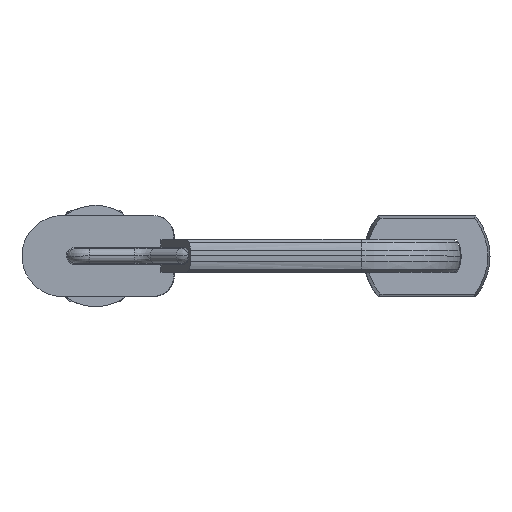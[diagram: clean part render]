
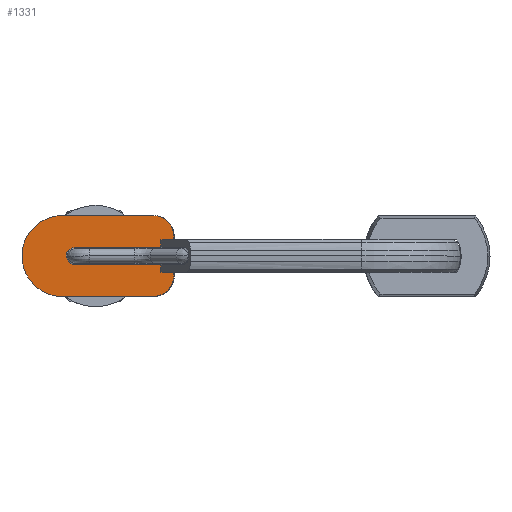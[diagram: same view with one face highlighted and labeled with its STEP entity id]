
A CAD part, top view. The second image highlights one B-rep face of the part: STEP entity #1331.
In plain terms, the highlighted free-form (B-spline) face has degree [1, 1] with [2, 2] control points.
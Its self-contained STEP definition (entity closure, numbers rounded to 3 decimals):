
#138=CARTESIAN_POINT('',(-87.411,6.5,14.628));
#139=VERTEX_POINT('',#138);
#145=CARTESIAN_POINT('',(-92.411,6.5,14.497));
#146=VERTEX_POINT('',#145);
#147=CARTESIAN_POINT('',(-92.411,6.5,14.497));
#148=CARTESIAN_POINT('',(-87.411,6.5,14.628));
#149=B_SPLINE_CURVE_WITH_KNOTS('',1,(#147,#148),.POLYLINE_FORM.,.F.,.U.,(2,2),(0.713,0.729),.UNSPECIFIED.);
#150=EDGE_CURVE('',#146,#139,#149,.T.);
#511=CARTESIAN_POINT('',(-92.411,-6.5,14.497));
#512=VERTEX_POINT('',#511);
#518=CARTESIAN_POINT('',(-87.411,-6.5,14.628));
#519=VERTEX_POINT('',#518);
#520=CARTESIAN_POINT('',(-87.411,-6.5,14.628));
#521=CARTESIAN_POINT('',(-92.411,-6.5,14.497));
#522=B_SPLINE_CURVE_WITH_KNOTS('',1,(#520,#521),.POLYLINE_FORM.,.F.,.U.,(2,2),(0.271,0.288),.UNSPECIFIED.);
#523=EDGE_CURVE('',#519,#512,#522,.T.);
#1192=CARTESIAN_POINT('',(-153.388,-36.,12.9));
#1193=CARTESIAN_POINT('',(-153.388,36.,12.9));
#1194=CARTESIAN_POINT('',(-81.413,-36.,14.785));
#1195=CARTESIAN_POINT('',(-81.413,36.,14.785));
#1196=B_SPLINE_SURFACE_WITH_KNOTS('',1,1,((#1192,#1193),(#1194,#1195)),.PLANE_SURF.,.F.,.F.,.U.,(2,2),(2,2),(0.,1.),(0.,1.),.UNSPECIFIED.);
#1197=CARTESIAN_POINT('',(-92.411,3.5,14.497));
#1198=VERTEX_POINT('',#1197);
#1199=CARTESIAN_POINT('',(-125.76,3.5,13.623));
#1200=VERTEX_POINT('',#1199);
#1201=CARTESIAN_POINT('',(-92.411,3.5,14.497));
#1202=CARTESIAN_POINT('',(-125.76,3.5,13.623));
#1203=B_SPLINE_CURVE_WITH_KNOTS('',1,(#1201,#1202),.POLYLINE_FORM.,.F.,.U.,(2,2),(0.009,1.),.UNSPECIFIED.);
#1204=EDGE_CURVE('',#1198,#1200,#1203,.T.);
#1205=ORIENTED_EDGE('',*,*,#1204,.F.);
#1206=CARTESIAN_POINT('',(-92.411,3.5,14.497));
#1207=CARTESIAN_POINT('',(-92.411,6.5,14.497));
#1208=B_SPLINE_CURVE_WITH_KNOTS('',1,(#1206,#1207),.POLYLINE_FORM.,.F.,.U.,(2,2),(0.306,0.32),.UNSPECIFIED.);
#1209=EDGE_CURVE('',#1198,#146,#1208,.T.);
#1210=ORIENTED_EDGE('',*,*,#1209,.T.);
#1211=ORIENTED_EDGE('',*,*,#150,.T.);
#1212=CARTESIAN_POINT('',(-87.411,8.,14.628));
#1213=VERTEX_POINT('',#1212);
#1214=CARTESIAN_POINT('',(-87.411,6.5,14.628));
#1215=CARTESIAN_POINT('',(-87.411,8.,14.628));
#1216=B_SPLINE_CURVE_WITH_KNOTS('',1,(#1214,#1215),.POLYLINE_FORM.,.F.,.U.,(2,2),(0.703,0.75),.UNSPECIFIED.);
#1217=EDGE_CURVE('',#139,#1213,#1216,.T.);
#1218=ORIENTED_EDGE('',*,*,#1217,.T.);
#1219=CARTESIAN_POINT('',(-95.408,16.,14.418));
#1220=VERTEX_POINT('',#1219);
#1221=CARTESIAN_POINT('',(-87.411,8.,14.628));
#1222=CARTESIAN_POINT('',(-87.411,16.,14.628));
#1223=CARTESIAN_POINT('',(-95.408,16.,14.418));
#1224=(BOUNDED_CURVE()B_SPLINE_CURVE(2,(#1221,#1222,#1223),.CIRCULAR_ARC.,.F.,.U.)B_SPLINE_CURVE_WITH_KNOTS((3,3),(0.,1.),.UNSPECIFIED.)CURVE()GEOMETRIC_REPRESENTATION_ITEM()RATIONAL_B_SPLINE_CURVE((1.,0.707,1.))REPRESENTATION_ITEM(''));
#1225=EDGE_CURVE('',#1213,#1220,#1224,.T.);
#1226=ORIENTED_EDGE('',*,*,#1225,.T.);
#1227=CARTESIAN_POINT('',(-131.396,16.,13.476));
#1228=VERTEX_POINT('',#1227);
#1229=CARTESIAN_POINT('',(-95.408,16.,14.418));
#1230=CARTESIAN_POINT('',(-131.396,16.,13.476));
#1231=B_SPLINE_CURVE_WITH_KNOTS('',1,(#1229,#1230),.POLYLINE_FORM.,.F.,.U.,(2,2),(0.182,1.),.UNSPECIFIED.);
#1232=EDGE_CURVE('',#1220,#1228,#1231,.T.);
#1233=ORIENTED_EDGE('',*,*,#1232,.T.);
#1234=CARTESIAN_POINT('',(-131.396,-16.,13.476));
#1235=VERTEX_POINT('',#1234);
#1236=CARTESIAN_POINT('',(-131.396,16.,13.476));
#1237=CARTESIAN_POINT('',(-147.39,16.,13.057));
#1238=CARTESIAN_POINT('',(-147.39,0.,13.057));
#1239=CARTESIAN_POINT('',(-147.39,-16.,13.057));
#1240=CARTESIAN_POINT('',(-131.396,-16.,13.476));
#1241=(BOUNDED_CURVE()B_SPLINE_CURVE(2,(#1236,#1237,#1238,#1239,#1240),.CIRCULAR_ARC.,.F.,.U.)B_SPLINE_CURVE_WITH_KNOTS((3,2,3),(0.,0.5,1.),.UNSPECIFIED.)CURVE()GEOMETRIC_REPRESENTATION_ITEM()RATIONAL_B_SPLINE_CURVE((1.,0.707,1.,0.707,1.))REPRESENTATION_ITEM(''));
#1242=EDGE_CURVE('',#1228,#1235,#1241,.T.);
#1243=ORIENTED_EDGE('',*,*,#1242,.T.);
#1244=CARTESIAN_POINT('',(-95.408,-16.,14.418));
#1245=VERTEX_POINT('',#1244);
#1246=CARTESIAN_POINT('',(-131.396,-16.,13.476));
#1247=CARTESIAN_POINT('',(-95.408,-16.,14.418));
#1248=B_SPLINE_CURVE_WITH_KNOTS('',1,(#1246,#1247),.POLYLINE_FORM.,.F.,.U.,(2,2),(0.,0.818),.UNSPECIFIED.);
#1249=EDGE_CURVE('',#1235,#1245,#1248,.T.);
#1250=ORIENTED_EDGE('',*,*,#1249,.T.);
#1251=CARTESIAN_POINT('',(-87.411,-8.,14.628));
#1252=VERTEX_POINT('',#1251);
#1253=CARTESIAN_POINT('',(-95.408,-16.,14.418));
#1254=CARTESIAN_POINT('',(-92.095,-16.,14.505));
#1255=CARTESIAN_POINT('',(-87.411,-11.314,14.628));
#1256=CARTESIAN_POINT('',(-87.411,-8.,14.628));
#1257=(BOUNDED_CURVE()B_SPLINE_CURVE(2,(#1253,#1254,#1255,#1256),.CIRCULAR_ARC.,.F.,.U.)B_SPLINE_CURVE_WITH_KNOTS((3,1,3),(0.,0.5,1.),.UNSPECIFIED.)CURVE()GEOMETRIC_REPRESENTATION_ITEM()RATIONAL_B_SPLINE_CURVE((1.,0.854,0.854,1.))REPRESENTATION_ITEM(''));
#1258=EDGE_CURVE('',#1245,#1252,#1257,.T.);
#1259=ORIENTED_EDGE('',*,*,#1258,.T.);
#1260=CARTESIAN_POINT('',(-87.411,-8.,14.628));
#1261=CARTESIAN_POINT('',(-87.411,-6.5,14.628));
#1262=B_SPLINE_CURVE_WITH_KNOTS('',1,(#1260,#1261),.POLYLINE_FORM.,.F.,.U.,(2,2),(0.25,0.297),.UNSPECIFIED.);
#1263=EDGE_CURVE('',#1252,#519,#1262,.T.);
#1264=ORIENTED_EDGE('',*,*,#1263,.T.);
#1265=ORIENTED_EDGE('',*,*,#523,.T.);
#1266=CARTESIAN_POINT('',(-92.411,-3.5,14.497));
#1267=VERTEX_POINT('',#1266);
#1268=CARTESIAN_POINT('',(-92.411,-6.5,14.497));
#1269=CARTESIAN_POINT('',(-92.411,-3.5,14.497));
#1270=B_SPLINE_CURVE_WITH_KNOTS('',1,(#1268,#1269),.POLYLINE_FORM.,.F.,.U.,(2,2),(0.259,0.273),.UNSPECIFIED.);
#1271=EDGE_CURVE('',#512,#1267,#1270,.T.);
#1272=ORIENTED_EDGE('',*,*,#1271,.T.);
#1273=CARTESIAN_POINT('',(-125.76,-3.5,13.623));
#1274=VERTEX_POINT('',#1273);
#1275=CARTESIAN_POINT('',(-125.76,-3.5,13.623));
#1276=CARTESIAN_POINT('',(-92.411,-3.5,14.497));
#1277=B_SPLINE_CURVE_WITH_KNOTS('',1,(#1275,#1276),.POLYLINE_FORM.,.F.,.U.,(2,2),(0.,0.991),.UNSPECIFIED.);
#1278=EDGE_CURVE('',#1274,#1267,#1277,.T.);
#1279=ORIENTED_EDGE('',*,*,#1278,.F.);
#1280=CARTESIAN_POINT('',(-129.883,0.,13.515));
#1281=VERTEX_POINT('',#1280);
#1282=CARTESIAN_POINT('',(-129.883,0.,13.515));
#1283=CARTESIAN_POINT('',(-129.883,-0.316,13.516));
#1284=CARTESIAN_POINT('',(-129.79,-0.778,13.518));
#1285=CARTESIAN_POINT('',(-129.698,-1.08,13.52));
#1286=CARTESIAN_POINT('',(-129.577,-1.371,13.524));
#1287=CARTESIAN_POINT('',(-129.427,-1.652,13.527));
#1288=CARTESIAN_POINT('',(-129.25,-1.919,13.532));
#1289=CARTESIAN_POINT('',(-129.046,-2.171,13.537));
#1290=CARTESIAN_POINT('',(-128.817,-2.405,13.543));
#1291=CARTESIAN_POINT('',(-128.564,-2.621,13.55));
#1292=CARTESIAN_POINT('',(-128.289,-2.816,13.557));
#1293=CARTESIAN_POINT('',(-127.992,-2.989,13.565));
#1294=CARTESIAN_POINT('',(-127.676,-3.138,13.573));
#1295=CARTESIAN_POINT('',(-127.341,-3.264,13.582));
#1296=CARTESIAN_POINT('',(-126.988,-3.364,13.591));
#1297=CARTESIAN_POINT('',(-126.618,-3.437,13.601));
#1298=CARTESIAN_POINT('',(-126.292,-3.477,13.61));
#1299=CARTESIAN_POINT('',(-126.065,-3.493,13.615));
#1300=CARTESIAN_POINT('',(-125.932,-3.498,13.619));
#1301=CARTESIAN_POINT('',(-125.858,-3.499,13.621));
#1302=CARTESIAN_POINT('',(-125.794,-3.5,13.623));
#1303=CARTESIAN_POINT('',(-125.76,-3.5,13.623));
#1304=B_SPLINE_CURVE_WITH_KNOTS('',2,(#1282,#1283,#1284,#1285,#1286,#1287,#1288,#1289,#1290,#1291,#1292,#1293,#1294,#1295,#1296,#1297,#1298,#1299,#1300,#1301,#1302,#1303),.UNSPECIFIED.,.F.,.U.,(3,1,1,1,1,1,1,1,1,1,1,1,1,1,1,1,1,1,1,1,3),(0.,0.104,0.156,0.208,0.261,0.314,0.367,0.421,0.476,0.531,0.588,0.645,0.704,0.764,0.825,0.889,0.935,0.964,0.979,0.989,1.),.UNSPECIFIED.);
#1305=EDGE_CURVE('',#1281,#1274,#1304,.T.);
#1306=ORIENTED_EDGE('',*,*,#1305,.F.);
#1307=CARTESIAN_POINT('',(-125.76,3.5,13.623));
#1308=CARTESIAN_POINT('',(-126.022,3.5,13.617));
#1309=CARTESIAN_POINT('',(-126.475,3.458,13.605));
#1310=CARTESIAN_POINT('',(-126.851,3.395,13.595));
#1311=CARTESIAN_POINT('',(-127.21,3.304,13.586));
#1312=CARTESIAN_POINT('',(-127.552,3.189,13.577));
#1313=CARTESIAN_POINT('',(-127.876,3.048,13.568));
#1314=CARTESIAN_POINT('',(-128.18,2.884,13.56));
#1315=CARTESIAN_POINT('',(-128.463,2.697,13.553));
#1316=CARTESIAN_POINT('',(-128.701,2.508,13.546));
#1317=CARTESIAN_POINT('',(-128.923,2.302,13.541));
#1318=CARTESIAN_POINT('',(-129.147,2.053,13.535));
#1319=CARTESIAN_POINT('',(-129.343,1.787,13.53));
#1320=CARTESIAN_POINT('',(-129.509,1.507,13.525));
#1321=CARTESIAN_POINT('',(-129.646,1.215,13.522));
#1322=CARTESIAN_POINT('',(-129.753,0.914,13.519));
#1323=CARTESIAN_POINT('',(-129.829,0.606,13.517));
#1324=CARTESIAN_POINT('',(-129.883,0.226,13.515));
#1325=CARTESIAN_POINT('',(-129.883,0.,13.515));
#1326=B_SPLINE_CURVE_WITH_KNOTS('',2,(#1307,#1308,#1309,#1310,#1311,#1312,#1313,#1314,#1315,#1316,#1317,#1318,#1319,#1320,#1321,#1322,#1323,#1324,#1325),.UNSPECIFIED.,.F.,.U.,(3,1,1,1,1,1,1,1,1,1,1,1,1,1,1,1,1,3),(0.,0.087,0.151,0.213,0.274,0.333,0.391,0.447,0.503,0.548,0.604,0.659,0.713,0.767,0.82,0.873,0.925,1.),.UNSPECIFIED.);
#1327=EDGE_CURVE('',#1200,#1281,#1326,.T.);
#1328=ORIENTED_EDGE('',*,*,#1327,.F.);
#1329=EDGE_LOOP('',(#1205,#1210,#1211,#1218,#1226,#1233,#1243,#1250,#1259,#1264,#1265,#1272,#1279,#1306,#1328));
#1330=FACE_OUTER_BOUND('',#1329,.T.);
#1331=ADVANCED_FACE('',(#1330),#1196,.T.);
